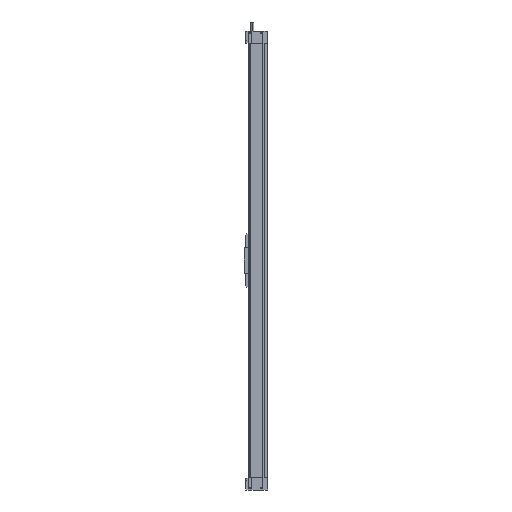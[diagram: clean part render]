
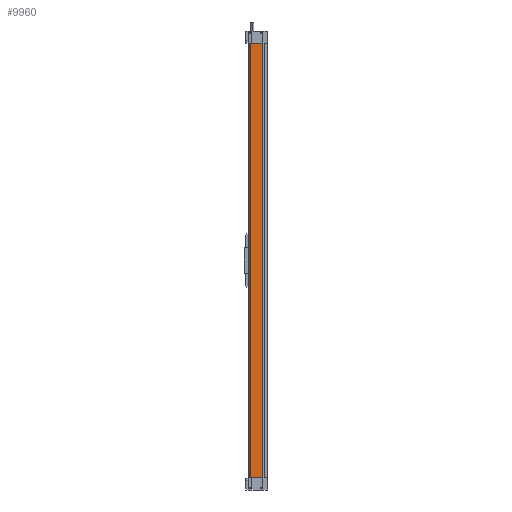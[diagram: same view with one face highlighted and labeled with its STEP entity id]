
A CAD part, left-side view. The second image highlights one B-rep face of the part: STEP entity #9960.
In plain terms, the highlighted planar face has unit normal (-1, 0, 0).
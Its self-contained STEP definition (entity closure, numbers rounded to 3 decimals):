
#720 = VERTEX_POINT ( 'NONE', #2897 ) ;
#915 = VERTEX_POINT ( 'NONE', #3182 ) ;
#1352 = VERTEX_POINT ( 'NONE', #3986 ) ;
#1353 = EDGE_CURVE ( 'NONE', #720, #1352, #3976, .T. ) ;
#2897 = CARTESIAN_POINT ( 'NONE',  ( -32.5, 24.15, 1444. ) ) ;
#3182 = CARTESIAN_POINT ( 'NONE',  ( -32.5, 24.15, 0. ) ) ;
#3963 = DIRECTION ( 'NONE',  ( 0., -1., 0. ) ) ;
#3964 = VECTOR ( 'NONE', #3963, 1000. ) ;
#3975 = CARTESIAN_POINT ( 'NONE',  ( -32.5, -16.45, 1444. ) ) ;
#3976 = LINE ( 'NONE', #3975, #3964 ) ;
#3986 = CARTESIAN_POINT ( 'NONE',  ( -32.5, -16.45, 1444. ) ) ;
#5822 = LINE ( 'NONE', #5863, #5862 ) ;
#5854 = AXIS2_PLACEMENT_3D ( 'NONE', #5916, #5899, #5898 ) ;
#5861 = DIRECTION ( 'NONE',  ( 0., 0., -1. ) ) ;
#5862 = VECTOR ( 'NONE', #5861, 1000. ) ;
#5863 = CARTESIAN_POINT ( 'NONE',  ( -32.5, -16.45, 1444. ) ) ;
#5888 = DIRECTION ( 'NONE',  ( 0., 0., -1. ) ) ;
#5889 = VECTOR ( 'NONE', #5888, 1000. ) ;
#5890 = CARTESIAN_POINT ( 'NONE',  ( -32.5, 24.15, 1444. ) ) ;
#5891 = LINE ( 'NONE', #5890, #5889 ) ;
#5898 = DIRECTION ( 'NONE',  ( 0., 0., -1. ) ) ;
#5899 = DIRECTION ( 'NONE',  ( 1., 0., 0. ) ) ;
#5910 = FACE_OUTER_BOUND ( 'NONE', #9993, .T. ) ;
#5912 = PLANE ( 'NONE',  #5854 ) ;
#5916 = CARTESIAN_POINT ( 'NONE',  ( -32.5, -16.45, 1444. ) ) ;
#6933 = LINE ( 'NONE', #6986, #6985 ) ;
#6964 = CARTESIAN_POINT ( 'NONE',  ( -32.5, -16.45, 0. ) ) ;
#6984 = DIRECTION ( 'NONE',  ( 0., -1., 0. ) ) ;
#6985 = VECTOR ( 'NONE', #6984, 1000. ) ;
#6986 = CARTESIAN_POINT ( 'NONE',  ( -32.5, -16.45, 0. ) ) ;
#9951 = EDGE_CURVE ( 'NONE', #1352, #10582, #5822, .T. ) ;
#9960 = ADVANCED_FACE ( 'NONE', ( #5910 ), #5912, .F. ) ;
#9967 = ORIENTED_EDGE ( 'NONE', *, *, #9968, .T. ) ;
#9968 = EDGE_CURVE ( 'NONE', #720, #915, #5891, .T. ) ;
#9978 = ORIENTED_EDGE ( 'NONE', *, *, #1353, .F. ) ;
#9986 = ORIENTED_EDGE ( 'NONE', *, *, #9951, .F. ) ;
#9988 = ORIENTED_EDGE ( 'NONE', *, *, #10562, .T. ) ;
#9993 = EDGE_LOOP ( 'NONE', ( #9988, #9986, #9978, #9967 ) ) ;
#10562 = EDGE_CURVE ( 'NONE', #915, #10582, #6933, .T. ) ;
#10582 = VERTEX_POINT ( 'NONE', #6964 ) ;
